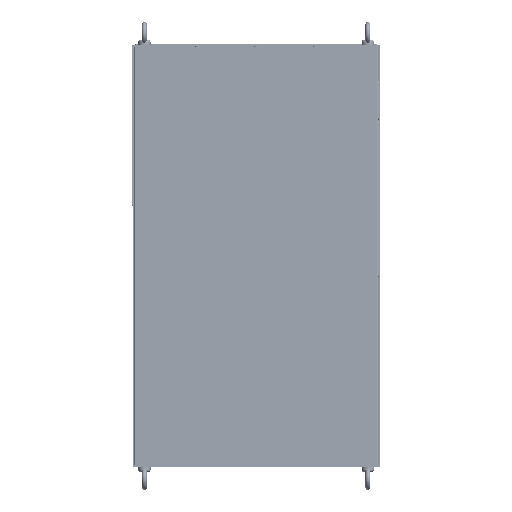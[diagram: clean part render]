
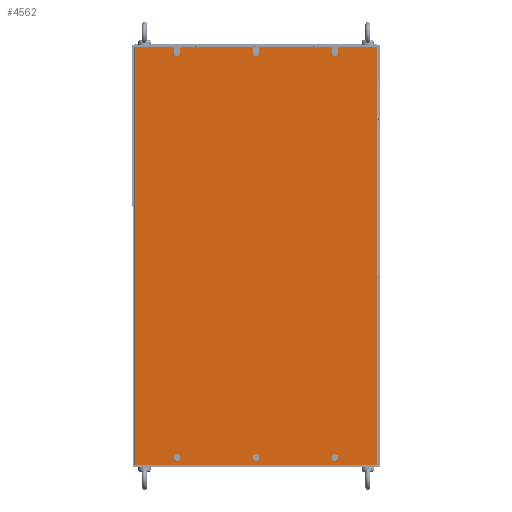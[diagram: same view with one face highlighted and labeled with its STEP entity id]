
A CAD part, front view. The second image highlights one B-rep face of the part: STEP entity #4562.
In plain terms, the highlighted planar face has unit normal (0, -1, 0).
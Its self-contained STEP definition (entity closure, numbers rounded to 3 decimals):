
#1087=DIRECTION('',(0.,0.,1.));
#1088=VECTOR('',#1087,796.);
#1089=CARTESIAN_POINT('',(229.5,0.,-421.));
#1090=LINE('',#1089,#1088);
#1102=CARTESIAN_POINT('',(-150.,0.,-406.));
#1103=DIRECTION('',(0.,1.,0.));
#1104=DIRECTION('',(-1.,0.,0.));
#1105=AXIS2_PLACEMENT_3D('',#1102,#1103,#1104);
#1110=CARTESIAN_POINT('',(-150.,0.,-406.));
#1111=DIRECTION('',(0.,1.,0.));
#1112=DIRECTION('',(1.,0.,0.));
#1113=AXIS2_PLACEMENT_3D('',#1110,#1111,#1112);
#1118=CARTESIAN_POINT('',(0.,0.,-406.));
#1119=DIRECTION('',(0.,1.,0.));
#1120=DIRECTION('',(-1.,0.,0.));
#1121=AXIS2_PLACEMENT_3D('',#1118,#1119,#1120);
#1126=CARTESIAN_POINT('',(0.,0.,-406.));
#1127=DIRECTION('',(0.,1.,0.));
#1128=DIRECTION('',(1.,0.,0.));
#1129=AXIS2_PLACEMENT_3D('',#1126,#1127,#1128);
#1134=CARTESIAN_POINT('',(150.,0.,-406.));
#1135=DIRECTION('',(0.,1.,0.));
#1136=DIRECTION('',(-1.,0.,0.));
#1137=AXIS2_PLACEMENT_3D('',#1134,#1135,#1136);
#1142=CARTESIAN_POINT('',(150.,0.,-406.));
#1143=DIRECTION('',(0.,1.,0.));
#1144=DIRECTION('',(1.,0.,0.));
#1145=AXIS2_PLACEMENT_3D('',#1142,#1143,#1144);
#1150=CARTESIAN_POINT('',(-141.75,0.,373.));
#1151=DIRECTION('',(0.,-1.,0.));
#1152=DIRECTION('',(0.,0.,1.));
#1153=AXIS2_PLACEMENT_3D('',#1150,#1151,#1152);
#1158=CARTESIAN_POINT('',(-8.25,0.,373.));
#1159=DIRECTION('',(0.,-1.,0.));
#1160=DIRECTION('',(1.,0.,0.));
#1161=AXIS2_PLACEMENT_3D('',#1158,#1159,#1160);
#1166=DIRECTION('',(0.,0.,-1.));
#1167=VECTOR('',#1166,10.);
#1168=CARTESIAN_POINT('',(-6.25,0.,373.));
#1169=LINE('',#1168,#1167);
#1173=CARTESIAN_POINT('',(0.,0.,363.));
#1174=DIRECTION('',(0.,1.,0.));
#1175=DIRECTION('',(1.,0.,0.));
#1176=AXIS2_PLACEMENT_3D('',#1173,#1174,#1175);
#1181=DIRECTION('',(0.,0.,-1.));
#1182=VECTOR('',#1181,10.);
#1183=CARTESIAN_POINT('',(6.25,0.,373.));
#1184=LINE('',#1183,#1182);
#1188=CARTESIAN_POINT('',(8.25,0.,373.));
#1189=DIRECTION('',(0.,-1.,0.));
#1190=DIRECTION('',(0.,0.,1.));
#1191=AXIS2_PLACEMENT_3D('',#1188,#1189,#1190);
#1196=CARTESIAN_POINT('',(141.75,0.,373.));
#1197=DIRECTION('',(0.,-1.,0.));
#1198=DIRECTION('',(1.,0.,0.));
#1199=AXIS2_PLACEMENT_3D('',#1196,#1197,#1198);
#1204=DIRECTION('',(0.,0.,-1.));
#1205=VECTOR('',#1204,10.);
#1206=CARTESIAN_POINT('',(143.75,0.,373.));
#1207=LINE('',#1206,#1205);
#1211=CARTESIAN_POINT('',(150.,0.,363.));
#1212=DIRECTION('',(0.,1.,0.));
#1213=DIRECTION('',(1.,0.,0.));
#1214=AXIS2_PLACEMENT_3D('',#1211,#1212,#1213);
#1219=DIRECTION('',(0.,0.,-1.));
#1220=VECTOR('',#1219,10.);
#1221=CARTESIAN_POINT('',(156.25,0.,373.));
#1222=LINE('',#1221,#1220);
#1226=CARTESIAN_POINT('',(158.25,0.,373.));
#1227=DIRECTION('',(0.,-1.,0.));
#1228=DIRECTION('',(0.,0.,1.));
#1229=AXIS2_PLACEMENT_3D('',#1226,#1227,#1228);
#1234=CARTESIAN_POINT('',(-158.25,0.,373.));
#1235=DIRECTION('',(0.,-1.,0.));
#1236=DIRECTION('',(1.,0.,0.));
#1237=AXIS2_PLACEMENT_3D('',#1234,#1235,#1236);
#1242=DIRECTION('',(0.,0.,-1.));
#1243=VECTOR('',#1242,10.);
#1244=CARTESIAN_POINT('',(-156.25,0.,373.));
#1245=LINE('',#1244,#1243);
#1249=CARTESIAN_POINT('',(-150.,0.,363.));
#1250=DIRECTION('',(0.,1.,0.));
#1251=DIRECTION('',(1.,0.,0.));
#1252=AXIS2_PLACEMENT_3D('',#1249,#1250,#1251);
#1257=DIRECTION('',(0.,0.,-1.));
#1258=VECTOR('',#1257,10.);
#1259=CARTESIAN_POINT('',(-143.75,0.,373.));
#1260=LINE('',#1259,#1258);
#1517=DIRECTION('',(1.,0.,0.));
#1518=VECTOR('',#1517,133.5);
#1519=CARTESIAN_POINT('',(-141.75,0.,375.));
#1520=LINE('',#1519,#1518);
#1545=DIRECTION('',(1.,0.,0.));
#1546=VECTOR('',#1545,133.5);
#1547=CARTESIAN_POINT('',(8.25,0.,375.));
#1548=LINE('',#1547,#1546);
#1566=DIRECTION('',(1.,0.,0.));
#1567=VECTOR('',#1566,71.25);
#1568=CARTESIAN_POINT('',(158.25,0.,375.));
#1569=LINE('',#1568,#1567);
#1580=DIRECTION('',(1.,0.,0.));
#1581=VECTOR('',#1580,71.25);
#1582=CARTESIAN_POINT('',(-229.5,0.,375.));
#1583=LINE('',#1582,#1581);
#1722=DIRECTION('',(0.,0.,1.));
#1723=VECTOR('',#1722,796.);
#1724=CARTESIAN_POINT('',(-229.5,0.,-421.));
#1725=LINE('',#1724,#1723);
#1759=DIRECTION('',(1.,0.,0.));
#1760=VECTOR('',#1759,459.);
#1761=CARTESIAN_POINT('',(-229.5,0.,-421.));
#1762=LINE('',#1761,#1760);
#3088=CARTESIAN_POINT('',(-229.5,0.,-421.));
#3089=CARTESIAN_POINT('',(229.5,0.,-421.));
#3090=VERTEX_POINT('',#3088);
#3091=VERTEX_POINT('',#3089);
#3098=CARTESIAN_POINT('',(229.5,0.,375.));
#3099=VERTEX_POINT('',#3098);
#3100=CARTESIAN_POINT('',(-229.5,0.,375.));
#3101=VERTEX_POINT('',#3100);
#3452=CARTESIAN_POINT('',(-156.25,0.,-406.));
#3453=CARTESIAN_POINT('',(-143.75,0.,-406.));
#3454=VERTEX_POINT('',#3452);
#3455=VERTEX_POINT('',#3453);
#3456=CARTESIAN_POINT('',(-6.25,0.,-406.));
#3457=CARTESIAN_POINT('',(6.25,0.,-406.));
#3458=VERTEX_POINT('',#3456);
#3459=VERTEX_POINT('',#3457);
#3460=CARTESIAN_POINT('',(143.75,0.,-406.));
#3461=CARTESIAN_POINT('',(156.25,0.,-406.));
#3462=VERTEX_POINT('',#3460);
#3463=VERTEX_POINT('',#3461);
#3464=CARTESIAN_POINT('',(156.25,0.,363.));
#3465=CARTESIAN_POINT('',(143.75,0.,363.));
#3466=VERTEX_POINT('',#3464);
#3467=VERTEX_POINT('',#3465);
#3468=CARTESIAN_POINT('',(6.25,0.,363.));
#3469=CARTESIAN_POINT('',(-6.25,0.,363.));
#3470=VERTEX_POINT('',#3468);
#3471=VERTEX_POINT('',#3469);
#3472=CARTESIAN_POINT('',(-143.75,0.,363.));
#3473=CARTESIAN_POINT('',(-156.25,0.,363.));
#3474=VERTEX_POINT('',#3472);
#3475=VERTEX_POINT('',#3473);
#3548=CARTESIAN_POINT('',(-141.75,0.,375.));
#3549=CARTESIAN_POINT('',(-143.75,0.,373.));
#3550=VERTEX_POINT('',#3548);
#3551=VERTEX_POINT('',#3549);
#3556=CARTESIAN_POINT('',(8.25,0.,375.));
#3557=CARTESIAN_POINT('',(6.25,0.,373.));
#3558=VERTEX_POINT('',#3556);
#3559=VERTEX_POINT('',#3557);
#3564=CARTESIAN_POINT('',(158.25,0.,375.));
#3565=CARTESIAN_POINT('',(156.25,0.,373.));
#3566=VERTEX_POINT('',#3564);
#3567=VERTEX_POINT('',#3565);
#3572=CARTESIAN_POINT('',(143.75,0.,373.));
#3573=CARTESIAN_POINT('',(141.75,0.,375.));
#3574=VERTEX_POINT('',#3572);
#3575=VERTEX_POINT('',#3573);
#3580=CARTESIAN_POINT('',(-6.25,0.,373.));
#3581=CARTESIAN_POINT('',(-8.25,0.,375.));
#3582=VERTEX_POINT('',#3580);
#3583=VERTEX_POINT('',#3581);
#3588=CARTESIAN_POINT('',(-156.25,0.,373.));
#3589=CARTESIAN_POINT('',(-158.25,0.,375.));
#3590=VERTEX_POINT('',#3588);
#3591=VERTEX_POINT('',#3589);
#4494=CARTESIAN_POINT('',(-232.,0.,-421.));
#4495=DIRECTION('',(0.,-1.,0.));
#4496=DIRECTION('',(1.,0.,0.));
#4497=AXIS2_PLACEMENT_3D('',#4494,#4495,#4496);
#4498=PLANE('',#4497);
#4500=ORIENTED_EDGE('',*,*,#4499,.F.);
#4502=ORIENTED_EDGE('',*,*,#4501,.T.);
#4504=ORIENTED_EDGE('',*,*,#4503,.F.);
#4506=ORIENTED_EDGE('',*,*,#4505,.T.);
#4508=ORIENTED_EDGE('',*,*,#4507,.F.);
#4510=ORIENTED_EDGE('',*,*,#4509,.F.);
#4512=ORIENTED_EDGE('',*,*,#4511,.F.);
#4514=ORIENTED_EDGE('',*,*,#4513,.T.);
#4516=ORIENTED_EDGE('',*,*,#4515,.F.);
#4518=ORIENTED_EDGE('',*,*,#4517,.T.);
#4520=ORIENTED_EDGE('',*,*,#4519,.F.);
#4522=ORIENTED_EDGE('',*,*,#4521,.F.);
#4524=ORIENTED_EDGE('',*,*,#4523,.F.);
#4526=ORIENTED_EDGE('',*,*,#4525,.T.);
#4527=ORIENTED_EDGE('',*,*,#4487,.F.);
#4529=ORIENTED_EDGE('',*,*,#4528,.F.);
#4531=ORIENTED_EDGE('',*,*,#4530,.T.);
#4533=ORIENTED_EDGE('',*,*,#4532,.T.);
#4535=ORIENTED_EDGE('',*,*,#4534,.F.);
#4537=ORIENTED_EDGE('',*,*,#4536,.T.);
#4539=ORIENTED_EDGE('',*,*,#4538,.F.);
#4541=ORIENTED_EDGE('',*,*,#4540,.F.);
#4542=EDGE_LOOP('',(#4500,#4502,#4504,#4506,#4508,#4510,#4512,#4514,#4516,#4518,
#4520,#4522,#4524,#4526,#4527,#4529,#4531,#4533,#4535,#4537,#4539,#4541));
#4543=FACE_OUTER_BOUND('',#4542,.F.);
#4545=ORIENTED_EDGE('',*,*,#4544,.F.);
#4547=ORIENTED_EDGE('',*,*,#4546,.F.);
#4548=EDGE_LOOP('',(#4545,#4547));
#4549=FACE_BOUND('',#4548,.F.);
#4551=ORIENTED_EDGE('',*,*,#4550,.F.);
#4553=ORIENTED_EDGE('',*,*,#4552,.F.);
#4554=EDGE_LOOP('',(#4551,#4553));
#4555=FACE_BOUND('',#4554,.F.);
#4557=ORIENTED_EDGE('',*,*,#4556,.F.);
#4559=ORIENTED_EDGE('',*,*,#4558,.F.);
#4560=EDGE_LOOP('',(#4557,#4559));
#4561=FACE_BOUND('',#4560,.F.);
#4562=ADVANCED_FACE('',(#4543,#4549,#4555,#4561),#4498,.T.);
#1106=CIRCLE('',#1105,6.25);
#1114=CIRCLE('',#1113,6.25);
#1122=CIRCLE('',#1121,6.25);
#1130=CIRCLE('',#1129,6.25);
#1138=CIRCLE('',#1137,6.25);
#1146=CIRCLE('',#1145,6.25);
#1154=CIRCLE('',#1153,2.);
#1162=CIRCLE('',#1161,2.);
#1177=CIRCLE('',#1176,6.25);
#1192=CIRCLE('',#1191,2.);
#1200=CIRCLE('',#1199,2.);
#1215=CIRCLE('',#1214,6.25);
#1230=CIRCLE('',#1229,2.);
#1238=CIRCLE('',#1237,2.);
#1253=CIRCLE('',#1252,6.25);
#4487=EDGE_CURVE('',#3091,#3099,#1090,.T.);
#4499=EDGE_CURVE('',#3550,#3551,#1154,.T.);
#4501=EDGE_CURVE('',#3550,#3583,#1520,.T.);
#4503=EDGE_CURVE('',#3582,#3583,#1162,.T.);
#4505=EDGE_CURVE('',#3582,#3471,#1169,.T.);
#4507=EDGE_CURVE('',#3470,#3471,#1177,.T.);
#4509=EDGE_CURVE('',#3559,#3470,#1184,.T.);
#4511=EDGE_CURVE('',#3558,#3559,#1192,.T.);
#4513=EDGE_CURVE('',#3558,#3575,#1548,.T.);
#4515=EDGE_CURVE('',#3574,#3575,#1200,.T.);
#4517=EDGE_CURVE('',#3574,#3467,#1207,.T.);
#4519=EDGE_CURVE('',#3466,#3467,#1215,.T.);
#4521=EDGE_CURVE('',#3567,#3466,#1222,.T.);
#4523=EDGE_CURVE('',#3566,#3567,#1230,.T.);
#4525=EDGE_CURVE('',#3566,#3099,#1569,.T.);
#4528=EDGE_CURVE('',#3090,#3091,#1762,.T.);
#4530=EDGE_CURVE('',#3090,#3101,#1725,.T.);
#4532=EDGE_CURVE('',#3101,#3591,#1583,.T.);
#4534=EDGE_CURVE('',#3590,#3591,#1238,.T.);
#4536=EDGE_CURVE('',#3590,#3475,#1245,.T.);
#4538=EDGE_CURVE('',#3474,#3475,#1253,.T.);
#4540=EDGE_CURVE('',#3551,#3474,#1260,.T.);
#4544=EDGE_CURVE('',#3458,#3459,#1122,.T.);
#4546=EDGE_CURVE('',#3459,#3458,#1130,.T.);
#4550=EDGE_CURVE('',#3462,#3463,#1138,.T.);
#4552=EDGE_CURVE('',#3463,#3462,#1146,.T.);
#4556=EDGE_CURVE('',#3454,#3455,#1106,.T.);
#4558=EDGE_CURVE('',#3455,#3454,#1114,.T.);
